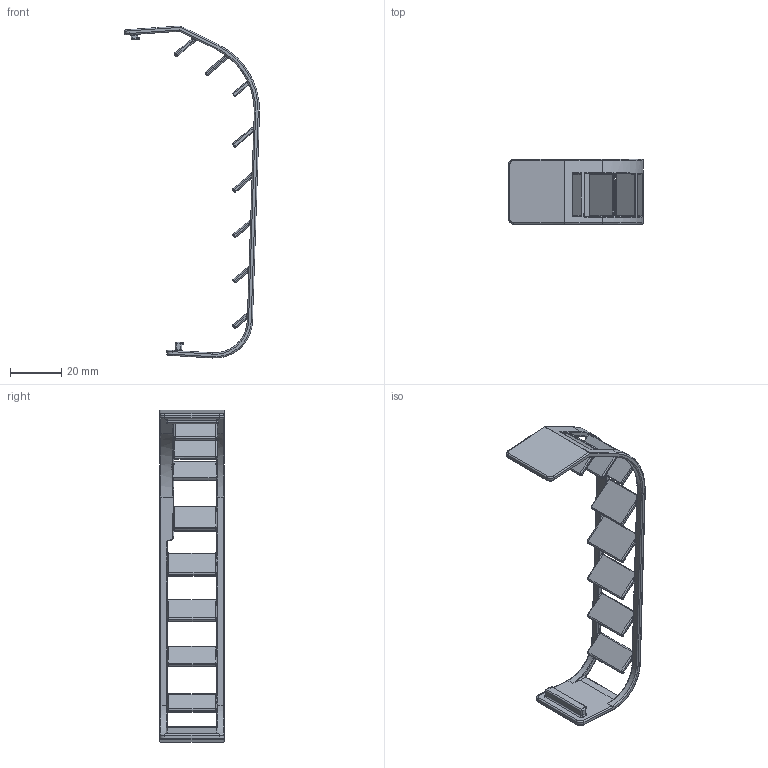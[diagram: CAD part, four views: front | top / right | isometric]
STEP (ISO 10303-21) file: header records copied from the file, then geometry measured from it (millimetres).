
FILE_DESCRIPTION(/* description */ ('Unknown'),/* implementation_level */ '2;1');
FILE_NAME(/* name */ 'heat diffuser cover 2.1',/* time_stamp */ '2025-01-29T07:34:20-06:00',/* author */ ('Unknown'),/* organization */ ('Unknown'),/* preprocessor_version */ 'ST-DEVELOPER v19.4',/* originating_system */ 'Solid Edge',/* authorisation */ 'Unknown');
FILE_SCHEMA (('AUTOMOTIVE_DESIGN {1 0 10303 214 3 1 1}'));
Length unit declared in the file: millimetre
Products named in the file (1): heat diffuser cover 2.1
Bounding box: 52.9 x 25.4 x 130.19 mm (x, y, z)
Volume: 7448.5 mm3; surface area: 9883.7 mm2
Topology: 1 solids, 1 shells, 636 faces, 1565 edges, 853 vertices
Faces by surface type: cylinder 248, bspline 197, plane 88, torus 61, sphere 42
Entity records: 23387 total; most frequent: CARTESIAN_POINT 9697, ORIENTED_EDGE 2994, DIRECTION 2807, EDGE_CURVE 1497, AXIS2_PLACEMENT_3D 1163, VERTEX_POINT 852, EDGE_LOOP 643, FACE_BOUND 643
